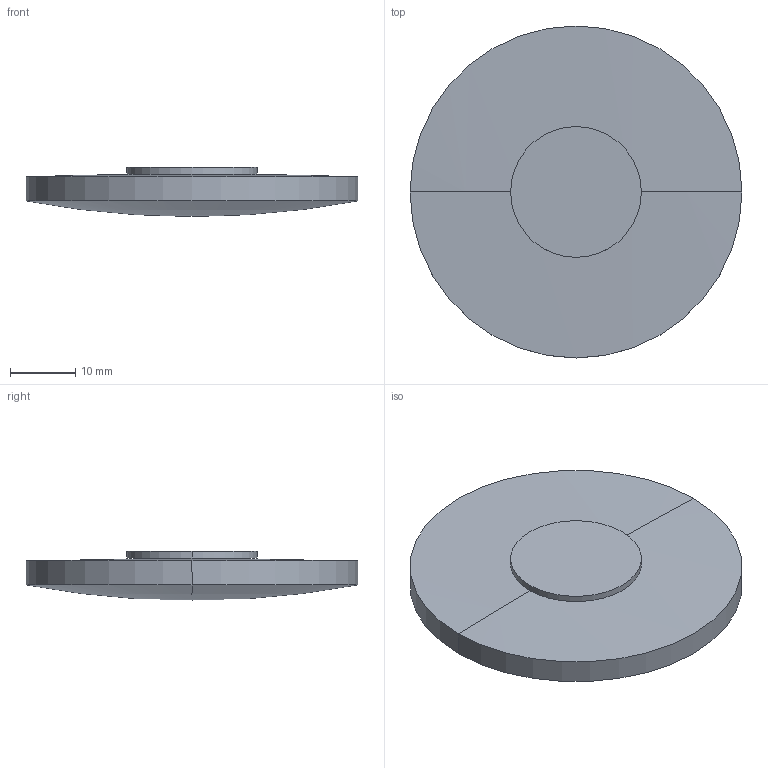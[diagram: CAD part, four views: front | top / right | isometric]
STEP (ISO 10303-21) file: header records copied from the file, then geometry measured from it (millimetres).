
FILE_DESCRIPTION(('STEP AP214'),'1');
FILE_NAME('LLU-51240.STEP','2020-03-09T17:42:15',(' '),(' '),'Spatial InterOp 3D',' ',' ');
FILE_SCHEMA(('AUTOMOTIVE_DESIGN { 1 0 10303 214 1 1 1 1 }'));
Length unit declared in the file: millimetre
Products named in the file (1): 1
Bounding box: 50.8 x 50.8 x 7.5 mm (x, y, z)
Volume: 10654 mm3; surface area: 5353 mm2
Topology: 2 solids, 2 shells, 10 faces, 20 edges, 10 vertices
Faces by surface type: sphere 4, cylinder 4, plane 2
Entity records: 255 total; most frequent: DIRECTION 52, CARTESIAN_POINT 38, ORIENTED_EDGE 32, AXIS2_PLACEMENT_3D 24, EDGE_CURVE 16, CIRCLE 12, ADVANCED_FACE 10, FACE_OUTER_BOUND 10
